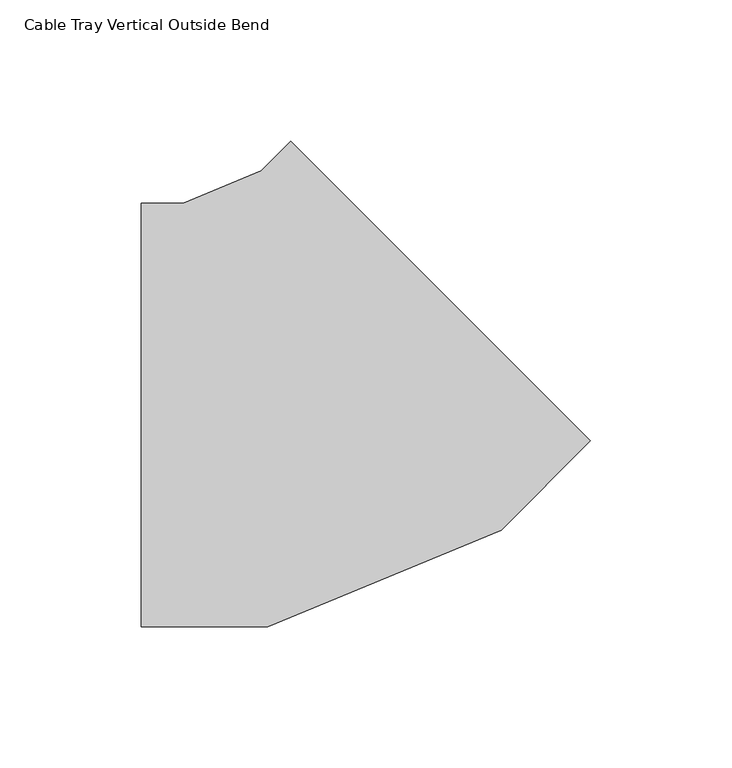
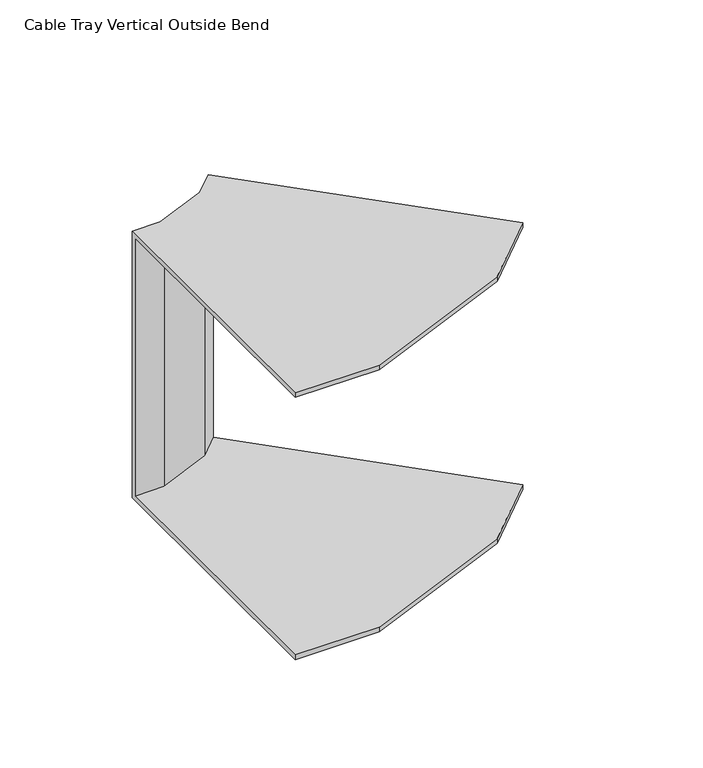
"""IFC4 building model written with IfcOpenShell, lengths in millimetres: cable carrier fitting geometry, Cable Tray Vertical Outside Bend : ELEC_ELV_TKG_N2402."""

from ifc_helpers import new_model, si_unit, origin, place, context, project, spatial, faceted_brep, source, transform, mapped, element, save


def cable_tray_vertical_outside_bend_b6a104fe(model_context):
    return source(origin(), model_context, "Body", "Brep", [
        faceted_brep([(-62.1320344, -75.0, 75.0), (-62.1320344, 75.0, 75.0), (-62.1320344, 75.0, -75.0), (-62.1320344, -75.0, -75.0), (-62.1320344, -75.0, -72.46), (-62.1320344, 72.46, -72.46), (-62.1320344, 72.46, 72.46), (-62.1320344, -75.0, 72.46), (96.9669914, -9.0990258, 75.0), (96.9669914, -9.0990258, 72.46), (-7.3029745, 95.1709402, 72.46), (-7.3029745, 95.1709402, -72.46), (96.9669914, -9.0990258, -72.46), (96.9669914, -9.0990258, -75.0), (-9.0990258, 96.9669914, -75.0), (-9.0990258, 96.9669914, 75.0), (-17.3767517, -75.0, 75.0), (65.3202275, -40.7457896, 75.0), (-19.6479471, 86.4180701, 75.0), (-47.2136068, 75.0, 75.0), (-47.2136068, 75.0, -75.0), (-19.6479471, 86.4180701, -75.0), (65.3202275, -40.7457896, -75.0), (-17.3767517, -75.0, -75.0), (-17.3767517, -75.0, -72.46), (65.3202275, -40.7457896, -72.46), (-18.2091526, 84.2647621, -72.46), (-46.7083694, 72.46, -72.46), (-46.7083694, 72.46, 72.46), (-18.2091526, 84.2647621, 72.46), (65.3202275, -40.7457896, 72.46), (-17.3767517, -75.0, 72.46)], [[[0, 1, 2, 3, 4, 5, 6, 7]], [[8, 9, 10, 11, 12, 13, 14, 15]], [[1, 0, 16, 17, 8, 15, 18, 19]], [[2, 1, 19, 20]], [[3, 2, 20, 21, 14, 13, 22, 23]], [[4, 3, 23, 24]], [[5, 4, 24, 25, 12, 11, 26, 27]], [[6, 5, 27, 28]], [[7, 6, 28, 29, 10, 9, 30, 31]], [[0, 7, 31, 16]], [[20, 19, 18, 21]], [[24, 23, 22, 25]], [[28, 27, 26, 29]], [[16, 31, 30, 17]], [[21, 18, 15, 14]], [[25, 22, 13, 12]], [[29, 26, 11, 10]], [[17, 30, 9, 8]]]),
    ])


if __name__ == "__main__":
    model = new_model("IFC4")
    model_context = context("Model", 3, world=origin())
    ifc_project = project(units=[si_unit("LENGTHUNIT", "METRE", prefix="MILLI")], contexts=[model_context])
    site = spatial("IfcSite", under=ifc_project)
    building = spatial("IfcBuilding", under=site)
    placement = place(None, origin())
    cable_tray_vertical_outside_bend_shape = cable_tray_vertical_outside_bend_b6a104fe(model_context)
    element("IfcCableCarrierFitting", 1, ObjectType="Cable Tray Vertical Outside Bend : ELEC_ELV_TKG_N2402", at=placement, inside=building, context=model_context, shape_type="MappedRepresentation", body=[
        mapped(cable_tray_vertical_outside_bend_shape, transform((0.0, 0.0, 0.0), x_axis=(1.0, 0.0, 0.0), y_axis=(0.0, 1.0, 0.0), z_axis=(0.0, 0.0, 1.0))),
    ])
    save(model, "model.ifc")
